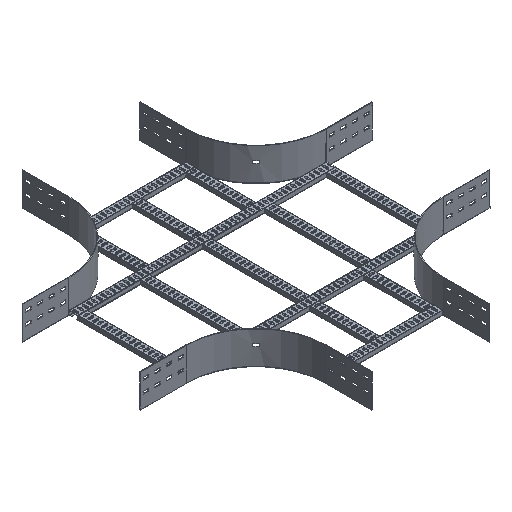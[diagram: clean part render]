
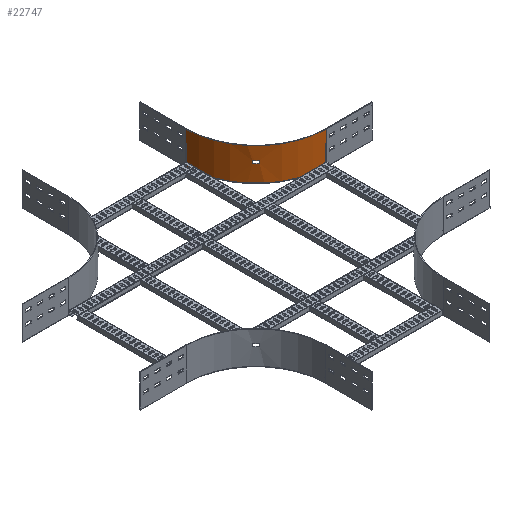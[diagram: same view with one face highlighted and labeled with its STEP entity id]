
A CAD part, isometric view. The second image highlights one B-rep face of the part: STEP entity #22747.
In plain terms, the highlighted cylindrical face has radius 303 mm (diameter 606 mm), a partial arc.
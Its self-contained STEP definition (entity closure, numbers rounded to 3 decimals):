
#595=FACE_BOUND('',#3311,.T.);
#1067=CYLINDRICAL_SURFACE('',#23946,303.);
#1126=CIRCLE('',#23938,303.);
#1131=CIRCLE('',#23945,303.);
#1132=CIRCLE('',#23947,303.);
#1133=CIRCLE('',#23948,303.);
#2147=FACE_OUTER_BOUND('',#3310,.T.);
#3310=EDGE_LOOP('',(#15414,#15415,#15416,#15417));
#3311=EDGE_LOOP('',(#15418,#15419,#15420,#15421));
#4945=LINE('',#31626,#7317);
#4947=LINE('',#31632,#7319);
#4952=LINE('',#31656,#7324);
#4953=LINE('',#31659,#7325);
#7317=VECTOR('',#25761,304.8);
#7319=VECTOR('',#25765,304.8);
#7324=VECTOR('',#25792,304.8);
#7325=VECTOR('',#25795,304.8);
#9686=VERTEX_POINT('',#31619);
#9689=VERTEX_POINT('',#31624);
#9691=VERTEX_POINT('',#31629);
#9692=VERTEX_POINT('',#31631);
#9698=VERTEX_POINT('',#31652);
#9699=VERTEX_POINT('',#31653);
#9700=VERTEX_POINT('',#31655);
#9701=VERTEX_POINT('',#31657);
#11961=EDGE_CURVE('',#9689,#9686,#4945,.T.);
#11963=EDGE_CURVE('',#9691,#9692,#4947,.T.);
#11966=EDGE_CURVE('',#9686,#9691,#1126,.T.);
#11973=EDGE_CURVE('',#9692,#9689,#1131,.T.);
#11974=EDGE_CURVE('',#9698,#9699,#1132,.T.);
#11975=EDGE_CURVE('',#9699,#9700,#4952,.T.);
#11976=EDGE_CURVE('',#9700,#9701,#1133,.T.);
#11977=EDGE_CURVE('',#9701,#9698,#4953,.T.);
#15414=ORIENTED_EDGE('',*,*,#11961,.F.);
#15415=ORIENTED_EDGE('',*,*,#11973,.F.);
#15416=ORIENTED_EDGE('',*,*,#11963,.F.);
#15417=ORIENTED_EDGE('',*,*,#11966,.F.);
#15418=ORIENTED_EDGE('',*,*,#11974,.T.);
#15419=ORIENTED_EDGE('',*,*,#11975,.T.);
#15420=ORIENTED_EDGE('',*,*,#11976,.T.);
#15421=ORIENTED_EDGE('',*,*,#11977,.T.);
#22747=ADVANCED_FACE('',(#2147,#595),#1067,.T.);
#23938=AXIS2_PLACEMENT_3D('',#31637,#25770,#25771);
#23945=AXIS2_PLACEMENT_3D('',#31650,#25786,#25787);
#23946=AXIS2_PLACEMENT_3D('',#31651,#25788,#25789);
#23947=AXIS2_PLACEMENT_3D('',#31654,#25790,#25791);
#23948=AXIS2_PLACEMENT_3D('',#31658,#25793,#25794);
#25761=DIRECTION('',(0.,0.,1.));
#25765=DIRECTION('',(0.,0.,-1.));
#25770=DIRECTION('center_axis',(0.,0.,1.));
#25771=DIRECTION('ref_axis',(-1.,0.,0.));
#25786=DIRECTION('center_axis',(0.,0.,-1.));
#25787=DIRECTION('ref_axis',(-1.,0.,0.));
#25788=DIRECTION('center_axis',(0.,0.,1.));
#25789=DIRECTION('ref_axis',(-1.,0.,0.));
#25790=DIRECTION('center_axis',(0.,0.,1.));
#25791=DIRECTION('ref_axis',(-1.,0.,0.));
#25792=DIRECTION('',(0.,0.,-1.));
#25793=DIRECTION('center_axis',(0.,0.,-1.));
#25794=DIRECTION('ref_axis',(-1.,0.,0.));
#25795=DIRECTION('',(0.,0.,1.));
#31619=CARTESIAN_POINT('',(252.5,555.5,71.));
#31624=CARTESIAN_POINT('',(252.5,555.5,-71.));
#31626=CARTESIAN_POINT('',(252.5,555.5,-71.));
#31629=CARTESIAN_POINT('',(555.5,252.5,71.));
#31631=CARTESIAN_POINT('',(555.5,252.5,-71.));
#31632=CARTESIAN_POINT('',(555.5,252.5,71.));
#31637=CARTESIAN_POINT('Origin',(555.5,555.5,71.));
#31650=CARTESIAN_POINT('Origin',(555.5,555.5,-71.));
#31651=CARTESIAN_POINT('Origin',(555.5,555.5,0.));
#31652=CARTESIAN_POINT('',(333.588,349.19,15.5));
#31653=CARTESIAN_POINT('',(349.142,333.632,15.5));
#31654=CARTESIAN_POINT('Origin',(555.5,555.5,15.5));
#31655=CARTESIAN_POINT('',(349.142,333.632,4.5));
#31656=CARTESIAN_POINT('',(349.142,333.632,15.5));
#31657=CARTESIAN_POINT('',(333.588,349.19,4.5));
#31658=CARTESIAN_POINT('Origin',(555.5,555.5,4.5));
#31659=CARTESIAN_POINT('',(333.588,349.19,4.5));
